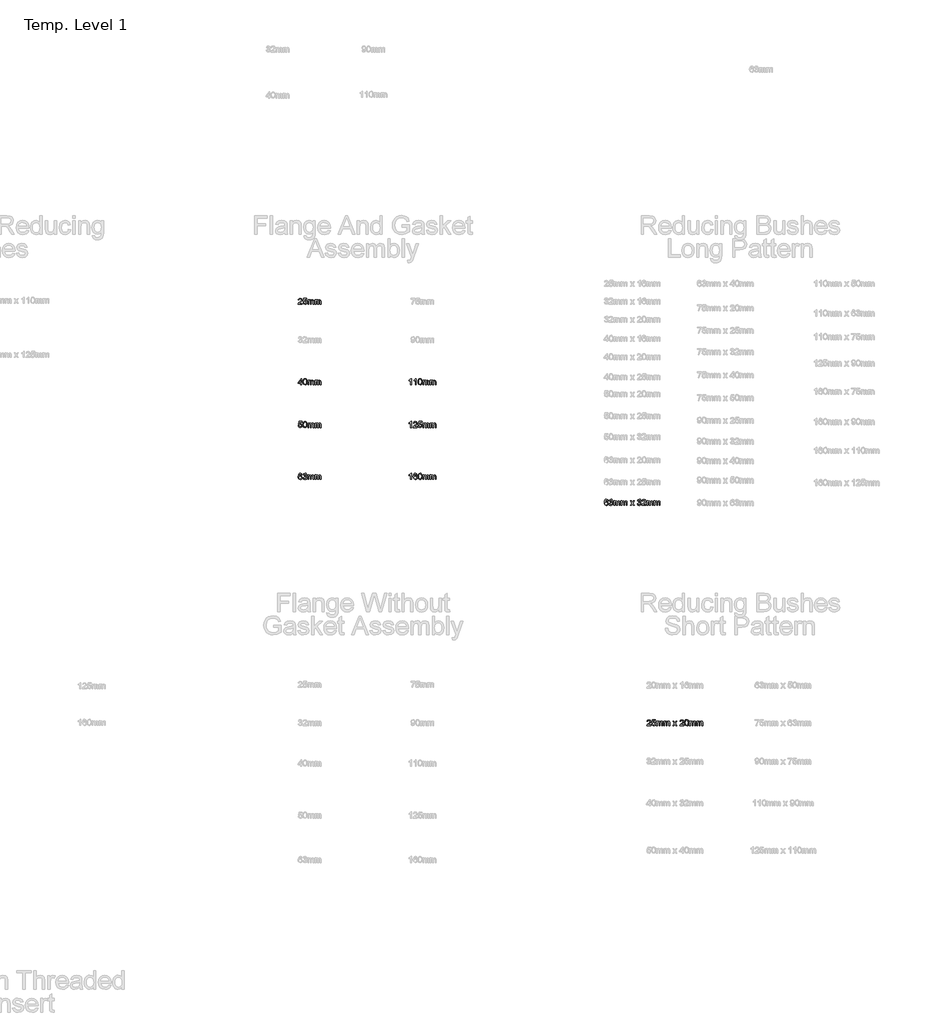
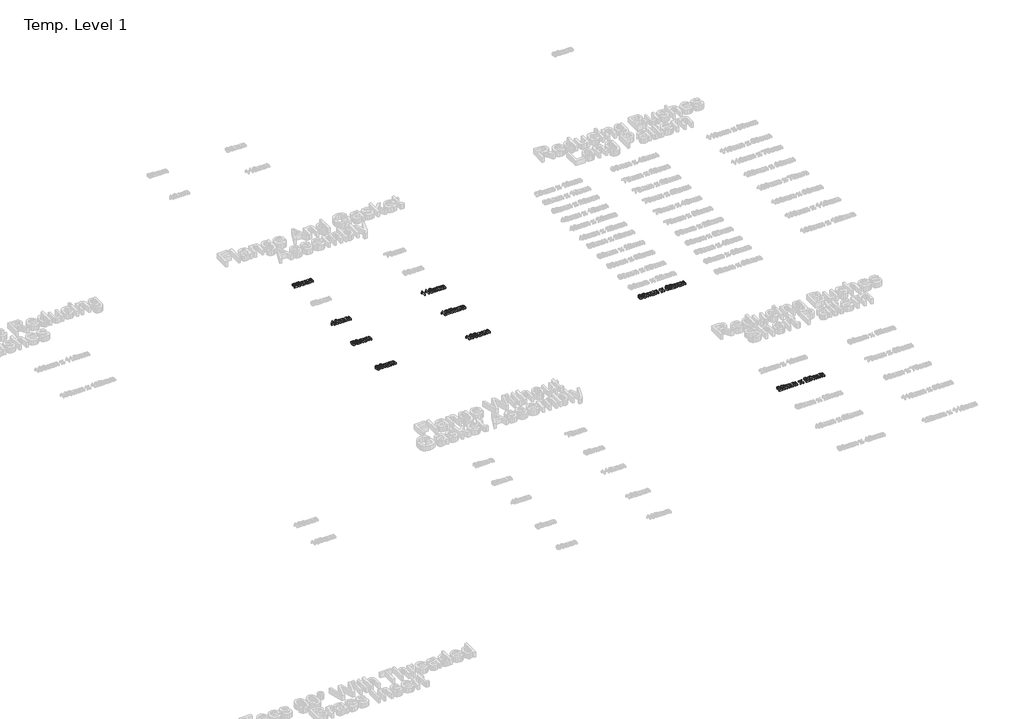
# One storey, part 34 of 62: 9 proxies.
"""IFC4 building model written with IfcOpenShell, lengths in millimetres."""

from ifc_helpers import new_model, si_unit, origin, origin_with_axes, place, context, project, spatial, polyline, outline, extrude, element, save

model = new_model("IFC4")

# Units and contexts
model_context = context("Model", 3, world=origin())
ifc_project = project(units=[si_unit("LENGTHUNIT", "METRE", prefix="MILLI")], contexts=[model_context])

# Site, building, storey
site = spatial("IfcSite", under=ifc_project)
building = spatial("IfcBuilding", under=site)
storey = spatial("IfcBuildingStorey", under=building, Name="Temp. Level 1", Elevation=0.0)

# Proxies
placement = place(None, origin())
element("IfcBuildingElementProxy", 1, Name="50mm Arial", ObjectType="50mm Arial", at=placement, inside=storey, context=model_context, shape_type="SweptSolid", body=[
    extrude(outline(polyline([(20936.7745802, -4529.0446709), (20936.7745802, -4535.198517), (20904.4668879, -4535.198517), (20905.1279456, -4530.9557286), (20908.8659263, -4524.4232766), (20916.5702533, -4517.2898632), (20927.1952533, -4507.0374593), (20929.8515033, -4500.0663055), (20927.3454936, -4494.4232766), (20920.8010225, -4492.1215939), (20913.980109, -4494.3691901), (20911.3899648, -4500.5831324), (20905.2361186, -4499.8139016), (20909.9536667, -4489.5134209), (20920.933234, -4485.9677478), (20931.948859, -4489.9100555), (20936.0053494, -4499.6937093), (20934.9115994, -4505.5290459), (20931.2757821, -4511.5626997), (20922.4596763, -4519.9941901), (20915.3803494, -4525.9136612), (20912.6039071, -4529.0446709), (20936.7745802, -4529.0446709)])), origin_with_axes(), (0.0, 0.0, 1.0), 15.0),
    extrude(outline(polyline([(20942.9284263, -4522.1215939), (20949.0822725, -4521.3523632), (20952.183234, -4527.6925074), (20958.6135225, -4529.8139016), (20966.3298686, -4526.8631805), (20969.0822725, -4519.0326516), (20966.5041475, -4511.7249593), (20958.7096763, -4509.0446709), (20953.3070321, -4510.1143824), (20949.8515033, -4512.8908247), (20943.6976571, -4512.1215939), (20949.0822725, -4486.7369786), (20972.9284263, -4486.7369786), (20972.9284263, -4492.8908247), (20954.058234, -4492.8908247), (20951.4260225, -4506.448517), (20960.4284263, -4502.8908247), (20970.9512629, -4507.3018824), (20975.2361186, -4518.6480362), (20971.3779456, -4530.0663055), (20965.8370802, -4534.4923872), (20958.589484, -4535.9677478), (20947.730109, -4532.1756805), (20942.9284263, -4522.1215939)])), origin_with_axes(), (0.0, 0.0, 1.0), 15.0),
    extrude(outline(polyline([(20982.1591956, -4535.198517), (20982.1591956, -4499.0446709), (20988.3130417, -4499.0446709), (20988.3130417, -4504.9941901), (20992.5438109, -4500.120392), (20998.5654456, -4498.2754401), (21004.7313109, -4500.1564497), (21008.120734, -4505.4268824), (21012.9224167, -4500.0633007), (21018.9861186, -4498.2754401), (21027.0329936, -4501.2501997), (21029.8515033, -4510.4148632), (21029.8515033, -4535.198517), (21023.6976571, -4535.198517), (21023.6976571, -4513.0590939), (21023.1267436, -4507.9208728), (21021.0594359, -4505.3908247), (21017.5438109, -4504.4292862), (21011.4921283, -4506.8932286), (21009.0822725, -4514.7898632), (21009.0822725, -4535.198517), (21002.9284263, -4535.198517), (21002.9284263, -4512.3739978), (21001.5041475, -4506.4124593), (20996.8346763, -4504.4292862), (20992.2793879, -4505.7514016), (20989.2505417, -4509.6215939), (20988.3130417, -4516.9653439), (20988.3130417, -4535.198517), (20982.1591956, -4535.198517)])), origin_with_axes(), (0.0, 0.0, 1.0), 15.0),
    extrude(outline(polyline([(21039.0822725, -4535.198517), (21039.0822725, -4499.0446709), (21045.2361186, -4499.0446709), (21045.2361186, -4504.9941901), (21049.4668879, -4500.120392), (21055.4885225, -4498.2754401), (21061.6543879, -4500.1564497), (21065.0438109, -4505.4268824), (21069.8454936, -4500.0633007), (21075.9091956, -4498.2754401), (21083.9560706, -4501.2501997), (21086.7745802, -4510.4148632), (21086.7745802, -4535.198517), (21080.620734, -4535.198517), (21080.620734, -4513.0590939), (21080.0498206, -4507.9208728), (21077.9825129, -4505.3908247), (21074.4668879, -4504.4292862), (21068.4152052, -4506.8932286), (21066.0053494, -4514.7898632), (21066.0053494, -4535.198517), (21059.8515033, -4535.198517), (21059.8515033, -4512.3739978), (21058.4272244, -4506.4124593), (21053.7577533, -4504.4292862), (21049.2024648, -4505.7514016), (21046.1736186, -4509.6215939), (21045.2361186, -4516.9653439), (21045.2361186, -4535.198517), (21039.0822725, -4535.198517)])), origin_with_axes(), (0.0, 0.0, 1.0), 15.0),
])
element("IfcBuildingElementProxy", 2, Name="50mm Arial", ObjectType="50mm Arial", at=placement, inside=storey, context=model_context, shape_type="SweptSolid", body=[
    extrude(outline(polyline([(20925.2361186, -5175.198517), (20925.2361186, -5163.6600555), (20902.9284263, -5163.6600555), (20902.9284263, -5157.5062093), (20926.7745802, -5126.7369786), (20931.3899648, -5126.7369786), (20931.3899648, -5157.5062093), (20937.5438109, -5157.5062093), (20937.5438109, -5163.6600555), (20931.3899648, -5163.6600555), (20931.3899648, -5175.198517), (20925.2361186, -5175.198517)]), holes=[polyline([(20925.2361186, -5157.5062093), (20925.2361186, -5138.4917862), (20910.5005417, -5157.5062093), (20925.2361186, -5157.5062093)])]), origin_with_axes(), (0.0, 0.0, 1.0), 15.0),
    extrude(outline(polyline([(20942.9284263, -5150.979767), (20944.7373206, -5136.8151036), (20950.1099167, -5128.6480362), (20959.0822725, -5125.9677478), (20966.2697725, -5127.5542862), (20971.2337148, -5132.1276036), (20974.1183302, -5139.4112574), (20975.2361186, -5150.979767), (20973.4452533, -5165.0843343), (20968.0906859, -5173.2694305), (20959.0822725, -5175.9677478), (20947.8322725, -5171.2802478), (20944.1543879, -5162.9539257), (20942.9284263, -5150.979767)]), holes=[polyline([(20949.0822725, -5150.9677478), (20951.9668879, -5166.2501997), (20959.0822725, -5169.8139016), (20966.1976571, -5166.2381805), (20969.0822725, -5150.9677478), (20966.2938109, -5135.8595747), (20959.0101571, -5132.1215939), (20952.0630417, -5135.4148632), (20949.0822725, -5150.9677478)])]), origin_with_axes(), (0.0, 0.0, 1.0), 15.0),
    extrude(outline(polyline([(20982.1591956, -5175.198517), (20982.1591956, -5139.0446709), (20988.3130417, -5139.0446709), (20988.3130417, -5144.9941901), (20992.5438109, -5140.120392), (20998.5654456, -5138.2754401), (21004.7313109, -5140.1564497), (21008.120734, -5145.4268824), (21012.9224167, -5140.0633007), (21018.9861186, -5138.2754401), (21027.0329936, -5141.2501997), (21029.8515033, -5150.4148632), (21029.8515033, -5175.198517), (21023.6976571, -5175.198517), (21023.6976571, -5153.0590939), (21023.1267436, -5147.9208728), (21021.0594359, -5145.3908247), (21017.5438109, -5144.4292862), (21011.4921283, -5146.8932286), (21009.0822725, -5154.7898632), (21009.0822725, -5175.198517), (21002.9284263, -5175.198517), (21002.9284263, -5152.3739978), (21001.5041475, -5146.4124593), (20996.8346763, -5144.4292862), (20992.2793879, -5145.7514016), (20989.2505417, -5149.6215939), (20988.3130417, -5156.9653439), (20988.3130417, -5175.198517), (20982.1591956, -5175.198517)])), origin_with_axes(), (0.0, 0.0, 1.0), 15.0),
    extrude(outline(polyline([(21039.0822725, -5175.198517), (21039.0822725, -5139.0446709), (21045.2361186, -5139.0446709), (21045.2361186, -5144.9941901), (21049.4668879, -5140.120392), (21055.4885225, -5138.2754401), (21061.6543879, -5140.1564497), (21065.0438109, -5145.4268824), (21069.8454936, -5140.0633007), (21075.9091956, -5138.2754401), (21083.9560706, -5141.2501997), (21086.7745802, -5150.4148632), (21086.7745802, -5175.198517), (21080.620734, -5175.198517), (21080.620734, -5153.0590939), (21080.0498206, -5147.9208728), (21077.9825129, -5145.3908247), (21074.4668879, -5144.4292862), (21068.4152052, -5146.8932286), (21066.0053494, -5154.7898632), (21066.0053494, -5175.198517), (21059.8515033, -5175.198517), (21059.8515033, -5152.3739978), (21058.4272244, -5146.4124593), (21053.7577533, -5144.4292862), (21049.2024648, -5145.7514016), (21046.1736186, -5149.6215939), (21045.2361186, -5156.9653439), (21045.2361186, -5175.198517), (21039.0822725, -5175.198517)])), origin_with_axes(), (0.0, 0.0, 1.0), 15.0),
])
element("IfcBuildingElementProxy", 3, Name="50mm Arial", ObjectType="50mm Arial", at=placement, inside=storey, context=model_context, shape_type="SweptSolid", body=[
    extrude(outline(polyline([(20905.2361186, -5501.8824542), (20911.3899648, -5501.1132234), (20914.4909263, -5507.4533677), (20920.9212148, -5509.5747619), (20928.6375609, -5506.6240407), (20931.3899648, -5498.7935119), (20928.8118398, -5491.4858196), (20921.0173686, -5488.8055311), (20915.6147244, -5489.8752427), (20912.1591956, -5492.651685), (20906.0053494, -5491.8824542), (20911.3899648, -5466.4978388), (20935.2361186, -5466.4978388), (20935.2361186, -5472.651685), (20916.3659263, -5472.651685), (20913.7337148, -5486.2093773), (20922.7361186, -5482.651685), (20933.2589552, -5487.0627427), (20937.5438109, -5498.4088965), (20933.6856379, -5509.8271657), (20928.1447725, -5514.2532475), (20920.8971763, -5515.728608), (20910.0378013, -5511.9365407), (20905.2361186, -5501.8824542)])), origin_with_axes(), (0.0, 0.0, 1.0), 15.0),
    extrude(outline(polyline([(20942.9284263, -5490.7406273), (20944.7373206, -5476.5759638), (20950.1099167, -5468.4088965), (20959.0822725, -5465.728608), (20966.2697725, -5467.3151465), (20971.2337148, -5471.8884638), (20974.1183302, -5479.1721177), (20975.2361186, -5490.7406273), (20973.4452533, -5504.8451946), (20968.0906859, -5513.0302907), (20959.0822725, -5515.728608), (20947.8322725, -5511.041108), (20944.1543879, -5502.7147859), (20942.9284263, -5490.7406273)]), holes=[polyline([(20949.0822725, -5490.728608), (20951.9668879, -5506.01106), (20959.0822725, -5509.5747619), (20966.1976571, -5505.9990407), (20969.0822725, -5490.728608), (20966.2938109, -5475.620435), (20959.0101571, -5471.8824542), (20952.0630417, -5475.1757234), (20949.0822725, -5490.728608)])]), origin_with_axes(), (0.0, 0.0, 1.0), 15.0),
    extrude(outline(polyline([(20982.1591956, -5514.9593773), (20982.1591956, -5478.8055311), (20988.3130417, -5478.8055311), (20988.3130417, -5484.7550504), (20992.5438109, -5479.8812523), (20998.5654456, -5478.0363004), (21004.7313109, -5479.91731), (21008.120734, -5485.1877427), (21012.9224167, -5479.8241609), (21018.9861186, -5478.0363004), (21027.0329936, -5481.01106), (21029.8515033, -5490.1757234), (21029.8515033, -5514.9593773), (21023.6976571, -5514.9593773), (21023.6976571, -5492.8199542), (21023.1267436, -5487.681733), (21021.0594359, -5485.151685), (21017.5438109, -5484.1901465), (21011.4921283, -5486.6540888), (21009.0822725, -5494.5507234), (21009.0822725, -5514.9593773), (21002.9284263, -5514.9593773), (21002.9284263, -5492.134858), (21001.5041475, -5486.1733196), (20996.8346763, -5484.1901465), (20992.2793879, -5485.5122619), (20989.2505417, -5489.3824542), (20988.3130417, -5496.7262042), (20988.3130417, -5514.9593773), (20982.1591956, -5514.9593773)])), origin_with_axes(), (0.0, 0.0, 1.0), 15.0),
    extrude(outline(polyline([(21039.0822725, -5514.9593773), (21039.0822725, -5478.8055311), (21045.2361186, -5478.8055311), (21045.2361186, -5484.7550504), (21049.4668879, -5479.8812523), (21055.4885225, -5478.0363004), (21061.6543879, -5479.91731), (21065.0438109, -5485.1877427), (21069.8454936, -5479.8241609), (21075.9091956, -5478.0363004), (21083.9560706, -5481.01106), (21086.7745802, -5490.1757234), (21086.7745802, -5514.9593773), (21080.620734, -5514.9593773), (21080.620734, -5492.8199542), (21080.0498206, -5487.681733), (21077.9825129, -5485.151685), (21074.4668879, -5484.1901465), (21068.4152052, -5486.6540888), (21066.0053494, -5494.5507234), (21066.0053494, -5514.9593773), (21059.8515033, -5514.9593773), (21059.8515033, -5492.134858), (21058.4272244, -5486.1733196), (21053.7577533, -5484.1901465), (21049.2024648, -5485.5122619), (21046.1736186, -5489.3824542), (21045.2361186, -5496.7262042), (21045.2361186, -5514.9593773), (21039.0822725, -5514.9593773)])), origin_with_axes(), (0.0, 0.0, 1.0), 15.0),
])
element("IfcBuildingElementProxy", 4, Name="50mm Arial", ObjectType="50mm Arial", at=placement, inside=storey, context=model_context, shape_type="SweptSolid", body=[
    extrude(outline(polyline([(20936.7745802, -5891.3055311), (20930.620734, -5892.0747619), (20928.2890033, -5886.9425504), (20922.1231379, -5884.3824542), (20916.5702533, -5885.8728388), (20912.3695321, -5891.4677907), (20910.620734, -5902.4353388), (20916.0474167, -5897.525483), (20922.7721763, -5895.9209157), (20933.2289071, -5900.307935), (20937.5438109, -5911.6420696), (20935.5125609, -5920.1336561), (20929.9236186, -5926.1432715), (20921.8587148, -5928.228608), (20909.3166475, -5922.6997619), (20905.6793278, -5915.3800504), (20904.4668879, -5904.478608), (20905.8130417, -5892.2219975), (20909.8515033, -5883.8415888), (20915.3653254, -5879.6318532), (20922.5077533, -5878.228608), (20932.2313109, -5881.7021657), (20936.7745802, -5891.3055311)]), holes=[polyline([(20910.620734, -5911.5459157), (20912.0450129, -5916.8764446), (20915.8310706, -5920.7466369), (20921.3779456, -5922.0747619), (20928.6315513, -5919.322358), (20931.3899648, -5911.8463965), (20928.667609, -5904.6889446), (20921.1255417, -5902.0747619), (20913.6796283, -5904.6889446), (20910.620734, -5911.5459157)])]), origin_with_axes(), (0.0, 0.0, 1.0), 15.0),
    extrude(outline(polyline([(20942.9284263, -5914.3824542), (20949.0822725, -5913.6132234), (20952.4777052, -5920.0915888), (20958.8298686, -5922.0747619), (20966.3058302, -5919.3463965), (20969.0822725, -5912.5915888), (20966.3298686, -5906.2274061), (20959.3346763, -5903.7093773), (20955.0197725, -5904.3824542), (20955.7048686, -5898.228608), (20963.6736186, -5896.5338965), (20966.7745802, -5891.1012042), (20964.526984, -5886.2875023), (20958.7337148, -5884.3824542), (20952.8683302, -5886.3055311), (20949.8515033, -5892.0747619), (20943.6976571, -5891.3055311), (20948.7337148, -5881.6540888), (20958.5173686, -5878.228608), (20965.9392436, -5879.91731), (20971.1315513, -5884.5326946), (20972.9284263, -5890.7406273), (20971.2216956, -5896.4137042), (20966.1736186, -5900.4882234), (20972.8803494, -5904.6949542), (20975.2361186, -5912.6997619), (20970.5245802, -5923.7093773), (20958.6135225, -5928.228608), (20947.8202533, -5924.370435), (20942.9284263, -5914.3824542)])), origin_with_axes(), (0.0, 0.0, 1.0), 15.0),
    extrude(outline(polyline([(20982.1591956, -5927.4593773), (20982.1591956, -5891.3055311), (20988.3130417, -5891.3055311), (20988.3130417, -5897.2550504), (20992.5438109, -5892.3812523), (20998.5654456, -5890.5363004), (21004.7313109, -5892.41731), (21008.120734, -5897.6877427), (21012.9224167, -5892.3241609), (21018.9861186, -5890.5363004), (21027.0329936, -5893.51106), (21029.8515033, -5902.6757234), (21029.8515033, -5927.4593773), (21023.6976571, -5927.4593773), (21023.6976571, -5905.3199542), (21023.1267436, -5900.181733), (21021.0594359, -5897.651685), (21017.5438109, -5896.6901465), (21011.4921283, -5899.1540888), (21009.0822725, -5907.0507234), (21009.0822725, -5927.4593773), (21002.9284263, -5927.4593773), (21002.9284263, -5904.634858), (21001.5041475, -5898.6733196), (20996.8346763, -5896.6901465), (20992.2793879, -5898.0122619), (20989.2505417, -5901.8824542), (20988.3130417, -5909.2262042), (20988.3130417, -5927.4593773), (20982.1591956, -5927.4593773)])), origin_with_axes(), (0.0, 0.0, 1.0), 15.0),
    extrude(outline(polyline([(21039.0822725, -5927.4593773), (21039.0822725, -5891.3055311), (21045.2361186, -5891.3055311), (21045.2361186, -5897.2550504), (21049.4668879, -5892.3812523), (21055.4885225, -5890.5363004), (21061.6543879, -5892.41731), (21065.0438109, -5897.6877427), (21069.8454936, -5892.3241609), (21075.9091956, -5890.5363004), (21083.9560706, -5893.51106), (21086.7745802, -5902.6757234), (21086.7745802, -5927.4593773), (21080.620734, -5927.4593773), (21080.620734, -5905.3199542), (21080.0498206, -5900.181733), (21077.9825129, -5897.651685), (21074.4668879, -5896.6901465), (21068.4152052, -5899.1540888), (21066.0053494, -5907.0507234), (21066.0053494, -5927.4593773), (21059.8515033, -5927.4593773), (21059.8515033, -5904.634858), (21058.4272244, -5898.6733196), (21053.7577533, -5896.6901465), (21049.2024648, -5898.0122619), (21046.1736186, -5901.8824542), (21045.2361186, -5909.2262042), (21045.2361186, -5927.4593773), (21039.0822725, -5927.4593773)])), origin_with_axes(), (0.0, 0.0, 1.0), 15.0),
])
element("IfcBuildingElementProxy", 5, Name="50mm Arial", ObjectType="50mm Arial", at=placement, inside=storey, context=model_context, shape_type="SweptSolid", body=[
    extrude(outline(polyline([(21805.4668879, -5175.198517), (21799.3130417, -5175.198517), (21799.3130417, -5136.8331324), (21793.4837148, -5140.9857766), (21787.0053494, -5144.0927478), (21787.0053494, -5138.2754401), (21796.0257821, -5132.5182286), (21801.5005417, -5125.9677478), (21805.4668879, -5125.9677478), (21805.4668879, -5175.198517)])), origin_with_axes(), (0.0, 0.0, 1.0), 15.0),
    extrude(outline(polyline([(21843.1591956, -5175.198517), (21837.0053494, -5175.198517), (21837.0053494, -5136.8331324), (21831.1760225, -5140.9857766), (21824.6976571, -5144.0927478), (21824.6976571, -5138.2754401), (21833.7180898, -5132.5182286), (21839.1928494, -5125.9677478), (21843.1591956, -5125.9677478), (21843.1591956, -5175.198517)])), origin_with_axes(), (0.0, 0.0, 1.0), 15.0),
    extrude(outline(polyline([(21857.7745802, -5150.979767), (21859.5834744, -5136.8151036), (21864.9560706, -5128.6480362), (21873.9284263, -5125.9677478), (21881.1159263, -5127.5542862), (21886.0798686, -5132.1276036), (21888.964484, -5139.4112574), (21890.0822725, -5150.979767), (21888.2914071, -5165.0843343), (21882.9368398, -5173.2694305), (21873.9284263, -5175.9677478), (21862.6784263, -5171.2802478), (21859.0005417, -5162.9539257), (21857.7745802, -5150.979767)]), holes=[polyline([(21863.9284263, -5150.9677478), (21866.8130417, -5166.2501997), (21873.9284263, -5169.8139016), (21881.0438109, -5166.2381805), (21883.9284263, -5150.9677478), (21881.1399648, -5135.8595747), (21873.8563109, -5132.1215939), (21866.9091956, -5135.4148632), (21863.9284263, -5150.9677478)])]), origin_with_axes(), (0.0, 0.0, 1.0), 15.0),
    extrude(outline(polyline([(21897.0053494, -5175.198517), (21897.0053494, -5139.0446709), (21903.1591956, -5139.0446709), (21903.1591956, -5144.9941901), (21907.3899648, -5140.120392), (21913.4115994, -5138.2754401), (21919.5774648, -5140.1564497), (21922.9668879, -5145.4268824), (21927.7685706, -5140.0633007), (21933.8322725, -5138.2754401), (21941.8791475, -5141.2501997), (21944.6976571, -5150.4148632), (21944.6976571, -5175.198517), (21938.5438109, -5175.198517), (21938.5438109, -5153.0590939), (21937.9728975, -5147.9208728), (21935.9055898, -5145.3908247), (21932.3899648, -5144.4292862), (21926.3382821, -5146.8932286), (21923.9284263, -5154.7898632), (21923.9284263, -5175.198517), (21917.7745802, -5175.198517), (21917.7745802, -5152.3739978), (21916.3503013, -5146.4124593), (21911.6808302, -5144.4292862), (21907.1255417, -5145.7514016), (21904.0966956, -5149.6215939), (21903.1591956, -5156.9653439), (21903.1591956, -5175.198517), (21897.0053494, -5175.198517)])), origin_with_axes(), (0.0, 0.0, 1.0), 15.0),
    extrude(outline(polyline([(21953.9284263, -5175.198517), (21953.9284263, -5139.0446709), (21960.0822725, -5139.0446709), (21960.0822725, -5144.9941901), (21964.3130417, -5140.120392), (21970.3346763, -5138.2754401), (21976.5005417, -5140.1564497), (21979.8899648, -5145.4268824), (21984.6916475, -5140.0633007), (21990.7553494, -5138.2754401), (21998.8022244, -5141.2501997), (22001.620734, -5150.4148632), (22001.620734, -5175.198517), (21995.4668879, -5175.198517), (21995.4668879, -5153.0590939), (21994.8959744, -5147.9208728), (21992.8286667, -5145.3908247), (21989.3130417, -5144.4292862), (21983.261359, -5146.8932286), (21980.8515033, -5154.7898632), (21980.8515033, -5175.198517), (21974.6976571, -5175.198517), (21974.6976571, -5152.3739978), (21973.2733783, -5146.4124593), (21968.6039071, -5144.4292862), (21964.0486186, -5145.7514016), (21961.0197725, -5149.6215939), (21960.0822725, -5156.9653439), (21960.0822725, -5175.198517), (21953.9284263, -5175.198517)])), origin_with_axes(), (0.0, 0.0, 1.0), 15.0),
])
element("IfcBuildingElementProxy", 6, Name="50mm Arial", ObjectType="50mm Arial", at=placement, inside=storey, context=model_context, shape_type="SweptSolid", body=[
    extrude(outline(polyline([(21805.4668879, -5514.9593773), (21799.3130417, -5514.9593773), (21799.3130417, -5476.5939927), (21793.4837148, -5480.7466369), (21787.0053494, -5483.853608), (21787.0053494, -5478.0363004), (21796.0257821, -5472.2790888), (21801.5005417, -5465.728608), (21805.4668879, -5465.728608), (21805.4668879, -5514.9593773)])), origin_with_axes(), (0.0, 0.0, 1.0), 15.0),
    extrude(outline(polyline([(21851.620734, -5508.8055311), (21851.620734, -5514.9593773), (21819.3130417, -5514.9593773), (21819.9740994, -5510.7165888), (21823.7120802, -5504.1841369), (21831.4164071, -5497.0507234), (21842.0414071, -5486.7983196), (21844.6976571, -5479.8271657), (21842.1916475, -5474.1841369), (21835.6471763, -5471.8824542), (21828.8262629, -5474.1300504), (21826.2361186, -5480.3439927), (21820.0822725, -5479.5747619), (21824.7998206, -5469.2742811), (21835.7793879, -5465.728608), (21846.7950129, -5469.6709157), (21850.8515033, -5479.4545696), (21849.7577533, -5485.2899061), (21846.1219359, -5491.32356), (21837.3058302, -5499.7550504), (21830.2265033, -5505.6745215), (21827.4500609, -5508.8055311), (21851.620734, -5508.8055311)])), origin_with_axes(), (0.0, 0.0, 1.0), 15.0),
    extrude(outline(polyline([(21857.7745802, -5501.8824542), (21863.9284263, -5501.1132234), (21867.0293879, -5507.4533677), (21873.4596763, -5509.5747619), (21881.1760225, -5506.6240407), (21883.9284263, -5498.7935119), (21881.3503013, -5491.4858196), (21873.5558302, -5488.8055311), (21868.1531859, -5489.8752427), (21864.6976571, -5492.651685), (21858.5438109, -5491.8824542), (21863.9284263, -5466.4978388), (21887.7745802, -5466.4978388), (21887.7745802, -5472.651685), (21868.9043879, -5472.651685), (21866.2721763, -5486.2093773), (21875.2745802, -5482.651685), (21885.7974167, -5487.0627427), (21890.0822725, -5498.4088965), (21886.2240994, -5509.8271657), (21880.683234, -5514.2532475), (21873.4356379, -5515.728608), (21862.5762629, -5511.9365407), (21857.7745802, -5501.8824542)])), origin_with_axes(), (0.0, 0.0, 1.0), 15.0),
    extrude(outline(polyline([(21897.0053494, -5514.9593773), (21897.0053494, -5478.8055311), (21903.1591956, -5478.8055311), (21903.1591956, -5484.7550504), (21907.3899648, -5479.8812523), (21913.4115994, -5478.0363004), (21919.5774648, -5479.91731), (21922.9668879, -5485.1877427), (21927.7685706, -5479.8241609), (21933.8322725, -5478.0363004), (21941.8791475, -5481.01106), (21944.6976571, -5490.1757234), (21944.6976571, -5514.9593773), (21938.5438109, -5514.9593773), (21938.5438109, -5492.8199542), (21937.9728975, -5487.681733), (21935.9055898, -5485.151685), (21932.3899648, -5484.1901465), (21926.3382821, -5486.6540888), (21923.9284263, -5494.5507234), (21923.9284263, -5514.9593773), (21917.7745802, -5514.9593773), (21917.7745802, -5492.134858), (21916.3503013, -5486.1733196), (21911.6808302, -5484.1901465), (21907.1255417, -5485.5122619), (21904.0966956, -5489.3824542), (21903.1591956, -5496.7262042), (21903.1591956, -5514.9593773), (21897.0053494, -5514.9593773)])), origin_with_axes(), (0.0, 0.0, 1.0), 15.0),
    extrude(outline(polyline([(21953.9284263, -5514.9593773), (21953.9284263, -5478.8055311), (21960.0822725, -5478.8055311), (21960.0822725, -5484.7550504), (21964.3130417, -5479.8812523), (21970.3346763, -5478.0363004), (21976.5005417, -5479.91731), (21979.8899648, -5485.1877427), (21984.6916475, -5479.8241609), (21990.7553494, -5478.0363004), (21998.8022244, -5481.01106), (22001.620734, -5490.1757234), (22001.620734, -5514.9593773), (21995.4668879, -5514.9593773), (21995.4668879, -5492.8199542), (21994.8959744, -5487.681733), (21992.8286667, -5485.151685), (21989.3130417, -5484.1901465), (21983.261359, -5486.6540888), (21980.8515033, -5494.5507234), (21980.8515033, -5514.9593773), (21974.6976571, -5514.9593773), (21974.6976571, -5492.134858), (21973.2733783, -5486.1733196), (21968.6039071, -5484.1901465), (21964.0486186, -5485.5122619), (21961.0197725, -5489.3824542), (21960.0822725, -5496.7262042), (21960.0822725, -5514.9593773), (21953.9284263, -5514.9593773)])), origin_with_axes(), (0.0, 0.0, 1.0), 15.0),
])
element("IfcBuildingElementProxy", 7, Name="50mm Arial", ObjectType="50mm Arial", at=placement, inside=storey, context=model_context, shape_type="SweptSolid", body=[
    extrude(outline(polyline([(21805.4668879, -5927.4593773), (21799.3130417, -5927.4593773), (21799.3130417, -5889.0939927), (21793.4837148, -5893.2466369), (21787.0053494, -5896.353608), (21787.0053494, -5890.5363004), (21796.0257821, -5884.7790888), (21801.5005417, -5878.228608), (21805.4668879, -5878.228608), (21805.4668879, -5927.4593773)])), origin_with_axes(), (0.0, 0.0, 1.0), 15.0),
    extrude(outline(polyline([(21851.620734, -5891.3055311), (21845.4668879, -5892.0747619), (21843.1351571, -5886.9425504), (21836.9692917, -5884.3824542), (21831.4164071, -5885.8728388), (21827.2156859, -5891.4677907), (21825.4668879, -5902.4353388), (21830.8935706, -5897.525483), (21837.6183302, -5895.9209157), (21848.0750609, -5900.307935), (21852.3899648, -5911.6420696), (21850.3587148, -5920.1336561), (21844.7697725, -5926.1432715), (21836.7048686, -5928.228608), (21824.1628013, -5922.6997619), (21820.5254816, -5915.3800504), (21819.3130417, -5904.478608), (21820.6591956, -5892.2219975), (21824.6976571, -5883.8415888), (21830.2114792, -5879.6318532), (21837.3539071, -5878.228608), (21847.0774648, -5881.7021657), (21851.620734, -5891.3055311)]), holes=[polyline([(21825.4668879, -5911.5459157), (21826.8911667, -5916.8764446), (21830.6772244, -5920.7466369), (21836.2240994, -5922.0747619), (21843.4777052, -5919.322358), (21846.2361186, -5911.8463965), (21843.5137629, -5904.6889446), (21835.9716956, -5902.0747619), (21828.5257821, -5904.6889446), (21825.4668879, -5911.5459157)])]), origin_with_axes(), (0.0, 0.0, 1.0), 15.0),
    extrude(outline(polyline([(21857.7745802, -5903.2406273), (21859.5834744, -5889.0759638), (21864.9560706, -5880.9088965), (21873.9284263, -5878.228608), (21881.1159263, -5879.8151465), (21886.0798686, -5884.3884638), (21888.964484, -5891.6721177), (21890.0822725, -5903.2406273), (21888.2914071, -5917.3451946), (21882.9368398, -5925.5302907), (21873.9284263, -5928.228608), (21862.6784263, -5923.541108), (21859.0005417, -5915.2147859), (21857.7745802, -5903.2406273)]), holes=[polyline([(21863.9284263, -5903.228608), (21866.8130417, -5918.51106), (21873.9284263, -5922.0747619), (21881.0438109, -5918.4990407), (21883.9284263, -5903.228608), (21881.1399648, -5888.120435), (21873.8563109, -5884.3824542), (21866.9091956, -5887.6757234), (21863.9284263, -5903.228608)])]), origin_with_axes(), (0.0, 0.0, 1.0), 15.0),
    extrude(outline(polyline([(21897.0053494, -5927.4593773), (21897.0053494, -5891.3055311), (21903.1591956, -5891.3055311), (21903.1591956, -5897.2550504), (21907.3899648, -5892.3812523), (21913.4115994, -5890.5363004), (21919.5774648, -5892.41731), (21922.9668879, -5897.6877427), (21927.7685706, -5892.3241609), (21933.8322725, -5890.5363004), (21941.8791475, -5893.51106), (21944.6976571, -5902.6757234), (21944.6976571, -5927.4593773), (21938.5438109, -5927.4593773), (21938.5438109, -5905.3199542), (21937.9728975, -5900.181733), (21935.9055898, -5897.651685), (21932.3899648, -5896.6901465), (21926.3382821, -5899.1540888), (21923.9284263, -5907.0507234), (21923.9284263, -5927.4593773), (21917.7745802, -5927.4593773), (21917.7745802, -5904.634858), (21916.3503013, -5898.6733196), (21911.6808302, -5896.6901465), (21907.1255417, -5898.0122619), (21904.0966956, -5901.8824542), (21903.1591956, -5909.2262042), (21903.1591956, -5927.4593773), (21897.0053494, -5927.4593773)])), origin_with_axes(), (0.0, 0.0, 1.0), 15.0),
    extrude(outline(polyline([(21953.9284263, -5927.4593773), (21953.9284263, -5891.3055311), (21960.0822725, -5891.3055311), (21960.0822725, -5897.2550504), (21964.3130417, -5892.3812523), (21970.3346763, -5890.5363004), (21976.5005417, -5892.41731), (21979.8899648, -5897.6877427), (21984.6916475, -5892.3241609), (21990.7553494, -5890.5363004), (21998.8022244, -5893.51106), (22001.620734, -5902.6757234), (22001.620734, -5927.4593773), (21995.4668879, -5927.4593773), (21995.4668879, -5905.3199542), (21994.8959744, -5900.181733), (21992.8286667, -5897.651685), (21989.3130417, -5896.6901465), (21983.261359, -5899.1540888), (21980.8515033, -5907.0507234), (21980.8515033, -5927.4593773), (21974.6976571, -5927.4593773), (21974.6976571, -5904.634858), (21973.2733783, -5898.6733196), (21968.6039071, -5896.6901465), (21964.0486186, -5898.0122619), (21961.0197725, -5901.8824542), (21960.0822725, -5909.2262042), (21960.0822725, -5927.4593773), (21953.9284263, -5927.4593773)])), origin_with_axes(), (0.0, 0.0, 1.0), 15.0),
])
element("IfcBuildingElementProxy", 8, Name="50mm Arial", ObjectType="50mm Arial", at=placement, inside=storey, context=model_context, shape_type="SweptSolid", body=[
    extrude(outline(polyline([(23370.9178032, -6097.7141655), (23364.763957, -6098.4833963), (23362.4322262, -6093.3511848), (23356.2663609, -6090.7910886), (23350.7134762, -6092.2814732), (23346.5127551, -6097.8764252), (23344.763957, -6108.8439732), (23350.1906397, -6103.9341175), (23356.9153993, -6102.3295502), (23367.3721301, -6106.7165694), (23371.6870339, -6118.050704), (23369.6557839, -6126.5422905), (23364.0668416, -6132.5519059), (23356.0019378, -6134.6372425), (23343.4598705, -6129.1083963), (23339.8225508, -6121.7886848), (23338.6101109, -6110.8872425), (23339.9562647, -6098.6306319), (23343.9947262, -6090.2502232), (23349.5085484, -6086.0404877), (23356.6509762, -6084.6372425), (23366.3745339, -6088.1108002), (23370.9178032, -6097.7141655)]), holes=[polyline([(23344.763957, -6117.9545502), (23346.1882359, -6123.285079), (23349.9742935, -6127.1552713), (23355.5211685, -6128.4833963), (23362.7747743, -6125.7309925), (23365.5331878, -6118.2550309), (23362.810832, -6111.097579), (23355.2687647, -6108.4833963), (23347.8228512, -6111.097579), (23344.763957, -6117.9545502)])]), origin_with_axes(), (0.0, 0.0, 1.0), 15.0),
    extrude(outline(polyline([(23377.0716493, -6120.7910886), (23383.2254955, -6120.0218579), (23386.6209282, -6126.5002232), (23392.9730916, -6128.4833963), (23400.4490532, -6125.7550309), (23403.2254955, -6119.0002232), (23400.4730916, -6112.6360405), (23393.4778993, -6110.1180117), (23389.1629955, -6110.7910886), (23389.8480916, -6104.6372425), (23397.8168416, -6102.9425309), (23400.9178032, -6097.5098386), (23398.670207, -6092.6961367), (23392.8769378, -6090.7910886), (23387.0115532, -6092.7141655), (23383.9947262, -6098.4833963), (23377.8408801, -6097.7141655), (23382.8769378, -6088.0627232), (23392.6605916, -6084.6372425), (23400.0824666, -6086.3259444), (23405.2747743, -6090.941329), (23407.0716493, -6097.1492617), (23405.3649185, -6102.8223386), (23400.3168416, -6106.8968579), (23407.0235724, -6111.1035886), (23409.3793416, -6119.1083963), (23404.6678032, -6130.1180117), (23392.7567455, -6134.6372425), (23381.9634762, -6130.7790694), (23377.0716493, -6120.7910886)])), origin_with_axes(), (0.0, 0.0, 1.0), 15.0),
    extrude(outline(polyline([(23416.3024185, -6133.8680117), (23416.3024185, -6097.7141655), (23422.4562647, -6097.7141655), (23422.4562647, -6103.6636848), (23426.6870339, -6098.7898867), (23432.7086685, -6096.9449348), (23438.8745339, -6098.8259444), (23442.263957, -6104.0963771), (23447.0656397, -6098.7327954), (23453.1293416, -6096.9449348), (23461.1762166, -6099.9196944), (23463.9947262, -6109.0843579), (23463.9947262, -6133.8680117), (23457.8408801, -6133.8680117), (23457.8408801, -6111.7285886), (23457.2699666, -6106.5903675), (23455.2026589, -6104.0603194), (23451.6870339, -6103.0987809), (23445.6353512, -6105.5627232), (23443.2254955, -6113.4593579), (23443.2254955, -6133.8680117), (23437.0716493, -6133.8680117), (23437.0716493, -6111.0434925), (23435.6473705, -6105.081954), (23430.9778993, -6103.0987809), (23426.4226109, -6104.4208963), (23423.3937647, -6108.2910886), (23422.4562647, -6115.6348386), (23422.4562647, -6133.8680117), (23416.3024185, -6133.8680117)])), origin_with_axes(), (0.0, 0.0, 1.0), 15.0),
    extrude(outline(polyline([(23473.2254955, -6133.8680117), (23473.2254955, -6097.7141655), (23479.3793416, -6097.7141655), (23479.3793416, -6103.6636848), (23483.6101109, -6098.7898867), (23489.6317455, -6096.9449348), (23495.7976109, -6098.8259444), (23499.1870339, -6104.0963771), (23503.9887166, -6098.7327954), (23510.0524185, -6096.9449348), (23518.0992935, -6099.9196944), (23520.9178032, -6109.0843579), (23520.9178032, -6133.8680117), (23514.763957, -6133.8680117), (23514.763957, -6111.7285886), (23514.1930435, -6106.5903675), (23512.1257359, -6104.0603194), (23508.6101109, -6103.0987809), (23502.5584282, -6105.5627232), (23500.1485724, -6113.4593579), (23500.1485724, -6133.8680117), (23493.9947262, -6133.8680117), (23493.9947262, -6111.0434925), (23492.5704474, -6105.081954), (23487.9009762, -6103.0987809), (23483.3456878, -6104.4208963), (23480.3168416, -6108.2910886), (23479.3793416, -6115.6348386), (23479.3793416, -6133.8680117), (23473.2254955, -6133.8680117)])), origin_with_axes(), (0.0, 0.0, 1.0), 15.0),
    extrude(outline(polyline([(23545.5331878, -6133.8680117), (23558.6822262, -6115.6949348), (23546.3024185, -6097.7141655), (23553.7062647, -6097.7141655), (23559.6798224, -6106.3680117), (23562.4682839, -6110.4545502), (23564.8841493, -6107.113204), (23571.6870339, -6097.7141655), (23579.0908801, -6097.7141655), (23566.0860724, -6115.6949348), (23578.6101109, -6133.8680117), (23571.2062647, -6133.8680117), (23563.670207, -6122.9425309), (23562.2879955, -6120.9473386), (23552.9370339, -6133.8680117), (23545.5331878, -6133.8680117)])), origin_with_axes(), (0.0, 0.0, 1.0), 15.0),
    extrude(outline(polyline([(23601.6870339, -6120.7910886), (23607.8408801, -6120.0218579), (23611.2363128, -6126.5002232), (23617.5884762, -6128.4833963), (23625.0644378, -6125.7550309), (23627.8408801, -6119.0002232), (23625.0884762, -6112.6360405), (23618.0932839, -6110.1180117), (23613.7783801, -6110.7910886), (23614.4634762, -6104.6372425), (23622.4322262, -6102.9425309), (23625.5331878, -6097.5098386), (23623.2855916, -6092.6961367), (23617.4923224, -6090.7910886), (23611.6269378, -6092.7141655), (23608.6101109, -6098.4833963), (23602.4562647, -6097.7141655), (23607.4923224, -6088.0627232), (23617.2759762, -6084.6372425), (23624.6978512, -6086.3259444), (23629.8901589, -6090.941329), (23631.6870339, -6097.1492617), (23629.9803032, -6102.8223386), (23624.9322262, -6106.8968579), (23631.638957, -6111.1035886), (23633.9947262, -6119.1083963), (23629.2831878, -6130.1180117), (23617.3721301, -6134.6372425), (23606.5788609, -6130.7790694), (23601.6870339, -6120.7910886)])), origin_with_axes(), (0.0, 0.0, 1.0), 15.0),
    extrude(outline(polyline([(23670.9178032, -6127.7141655), (23670.9178032, -6133.8680117), (23638.6101109, -6133.8680117), (23639.2711685, -6129.6252232), (23643.0091493, -6123.0927713), (23650.7134762, -6115.9593579), (23661.3384762, -6105.706954), (23663.9947262, -6098.7358002), (23661.4887166, -6093.0927713), (23654.9442455, -6090.7910886), (23648.123332, -6093.0386848), (23645.5331878, -6099.2526271), (23639.3793416, -6098.4833963), (23644.0968897, -6088.1829155), (23655.076457, -6084.6372425), (23666.092082, -6088.5795502), (23670.1485724, -6098.363204), (23669.0548224, -6104.1985405), (23665.4190051, -6110.2321944), (23656.6028993, -6118.6636848), (23649.5235724, -6124.5831559), (23646.7471301, -6127.7141655), (23670.9178032, -6127.7141655)])), origin_with_axes(), (0.0, 0.0, 1.0), 15.0),
    extrude(outline(polyline([(23678.6101109, -6133.8680117), (23678.6101109, -6097.7141655), (23684.763957, -6097.7141655), (23684.763957, -6103.6636848), (23688.9947262, -6098.7898867), (23695.0163609, -6096.9449348), (23701.1822262, -6098.8259444), (23704.5716493, -6104.0963771), (23709.373332, -6098.7327954), (23715.4370339, -6096.9449348), (23723.4839089, -6099.9196944), (23726.3024185, -6109.0843579), (23726.3024185, -6133.8680117), (23720.1485724, -6133.8680117), (23720.1485724, -6111.7285886), (23719.5776589, -6106.5903675), (23717.5103512, -6104.0603194), (23713.9947262, -6103.0987809), (23707.9430435, -6105.5627232), (23705.5331878, -6113.4593579), (23705.5331878, -6133.8680117), (23699.3793416, -6133.8680117), (23699.3793416, -6111.0434925), (23697.9550628, -6105.081954), (23693.2855916, -6103.0987809), (23688.7303032, -6104.4208963), (23685.701457, -6108.2910886), (23684.763957, -6115.6348386), (23684.763957, -6133.8680117), (23678.6101109, -6133.8680117)])), origin_with_axes(), (0.0, 0.0, 1.0), 15.0),
    extrude(outline(polyline([(23735.5331878, -6133.8680117), (23735.5331878, -6097.7141655), (23741.6870339, -6097.7141655), (23741.6870339, -6103.6636848), (23745.9178032, -6098.7898867), (23751.9394378, -6096.9449348), (23758.1053032, -6098.8259444), (23761.4947262, -6104.0963771), (23766.2964089, -6098.7327954), (23772.3601109, -6096.9449348), (23780.4069859, -6099.9196944), (23783.2254955, -6109.0843579), (23783.2254955, -6133.8680117), (23777.0716493, -6133.8680117), (23777.0716493, -6111.7285886), (23776.5007359, -6106.5903675), (23774.4334282, -6104.0603194), (23770.9178032, -6103.0987809), (23764.8661205, -6105.5627232), (23762.4562647, -6113.4593579), (23762.4562647, -6133.8680117), (23756.3024185, -6133.8680117), (23756.3024185, -6111.0434925), (23754.8781397, -6105.081954), (23750.2086685, -6103.0987809), (23745.6533801, -6104.4208963), (23742.6245339, -6108.2910886), (23741.6870339, -6115.6348386), (23741.6870339, -6133.8680117), (23735.5331878, -6133.8680117)])), origin_with_axes(), (0.0, 0.0, 1.0), 15.0),
])
element("IfcBuildingElementProxy", 9, Name="50mm Arial", ObjectType="50mm Arial", at=placement, inside=storey, context=model_context, shape_type="SweptSolid", body=[
    extrude(outline(polyline([(23709.5900242, -7879.121299), (23709.5900242, -7885.2751451), (23677.2823318, -7885.2751451), (23677.9433895, -7881.0323566), (23681.6813703, -7874.4999047), (23689.3856972, -7867.3664913), (23700.0106972, -7857.1140874), (23702.6669472, -7850.1429336), (23700.1609376, -7844.4999047), (23693.6164665, -7842.198222), (23686.795553, -7844.4458182), (23684.2054088, -7850.6597605), (23678.0515626, -7849.8905297), (23682.7691107, -7839.590049), (23693.748678, -7836.0443759), (23704.764303, -7839.9866836), (23708.8207934, -7849.7703374), (23707.7270434, -7855.605674), (23704.0912261, -7861.6393278), (23695.2751203, -7870.0708182), (23688.1957934, -7875.9902893), (23685.4193511, -7879.121299), (23709.5900242, -7879.121299)])), origin_with_axes(), (0.0, 0.0, 1.0), 15.0),
    extrude(outline(polyline([(23715.7438703, -7872.198222), (23721.8977165, -7871.4289913), (23724.998678, -7877.7691355), (23731.4289665, -7879.8905297), (23739.1453126, -7876.9398086), (23741.8977165, -7869.1092797), (23739.3195915, -7861.8015874), (23731.5251203, -7859.121299), (23726.1224761, -7860.1910105), (23722.6669472, -7862.9674528), (23716.5131011, -7862.198222), (23721.8977165, -7836.8136066), (23745.7438703, -7836.8136066), (23745.7438703, -7842.9674528), (23726.873678, -7842.9674528), (23724.2414665, -7856.5251451), (23733.2438703, -7852.9674528), (23743.7667068, -7857.3785105), (23748.0515626, -7868.7246643), (23744.1933895, -7880.1429336), (23738.6525242, -7884.5690153), (23731.404928, -7886.0443759), (23720.545553, -7882.2523086), (23715.7438703, -7872.198222)])), origin_with_axes(), (0.0, 0.0, 1.0), 15.0),
    extrude(outline(polyline([(23754.9746395, -7885.2751451), (23754.9746395, -7849.121299), (23761.1284857, -7849.121299), (23761.1284857, -7855.0708182), (23765.3592549, -7850.1970201), (23771.3808895, -7848.3520682), (23777.5467549, -7850.2330778), (23780.936178, -7855.5035105), (23785.7378607, -7850.1399288), (23791.8015626, -7848.3520682), (23799.8484376, -7851.3268278), (23802.6669472, -7860.4914913), (23802.6669472, -7885.2751451), (23796.5131011, -7885.2751451), (23796.5131011, -7863.135722), (23795.9421876, -7857.9975009), (23793.8748799, -7855.4674528), (23790.3592549, -7854.5059143), (23784.3075722, -7856.9698566), (23781.8977165, -7864.8664913), (23781.8977165, -7885.2751451), (23775.7438703, -7885.2751451), (23775.7438703, -7862.4506259), (23774.3195915, -7856.4890874), (23769.6501203, -7854.5059143), (23765.0948318, -7855.8280297), (23762.0659857, -7859.698222), (23761.1284857, -7867.041972), (23761.1284857, -7885.2751451), (23754.9746395, -7885.2751451)])), origin_with_axes(), (0.0, 0.0, 1.0), 15.0),
    extrude(outline(polyline([(23811.8977165, -7885.2751451), (23811.8977165, -7849.121299), (23818.0515626, -7849.121299), (23818.0515626, -7855.0708182), (23822.2823318, -7850.1970201), (23828.3039665, -7848.3520682), (23834.4698318, -7850.2330778), (23837.8592549, -7855.5035105), (23842.6609376, -7850.1399288), (23848.7246395, -7848.3520682), (23856.7715145, -7851.3268278), (23859.5900242, -7860.4914913), (23859.5900242, -7885.2751451), (23853.436178, -7885.2751451), (23853.436178, -7863.135722), (23852.8652645, -7857.9975009), (23850.7979568, -7855.4674528), (23847.2823318, -7854.5059143), (23841.2306492, -7856.9698566), (23838.8207934, -7864.8664913), (23838.8207934, -7885.2751451), (23832.6669472, -7885.2751451), (23832.6669472, -7862.4506259), (23831.2426684, -7856.4890874), (23826.5731972, -7854.5059143), (23822.0179088, -7855.8280297), (23818.9890626, -7859.698222), (23818.0515626, -7867.041972), (23818.0515626, -7885.2751451), (23811.8977165, -7885.2751451)])), origin_with_axes(), (0.0, 0.0, 1.0), 15.0),
    extrude(outline(polyline([(23884.2054088, -7885.2751451), (23897.3544472, -7867.1020682), (23884.9746395, -7849.121299), (23892.3784857, -7849.121299), (23898.3520434, -7857.7751451), (23901.1405049, -7861.8616836), (23903.5563703, -7858.5203374), (23910.3592549, -7849.121299), (23917.7631011, -7849.121299), (23904.7582934, -7867.1020682), (23917.2823318, -7885.2751451), (23909.8784857, -7885.2751451), (23902.342428, -7874.3496643), (23900.9602165, -7872.354472), (23891.6092549, -7885.2751451), (23884.2054088, -7885.2751451)])), origin_with_axes(), (0.0, 0.0, 1.0), 15.0),
    extrude(outline(polyline([(23971.8977165, -7879.121299), (23971.8977165, -7885.2751451), (23939.5900242, -7885.2751451), (23940.2510818, -7881.0323566), (23943.9890626, -7874.4999047), (23951.6933895, -7867.3664913), (23962.3183895, -7857.1140874), (23964.9746395, -7850.1429336), (23962.4686299, -7844.4999047), (23955.9241588, -7842.198222), (23949.1032453, -7844.4458182), (23946.5131011, -7850.6597605), (23940.3592549, -7849.8905297), (23945.076803, -7839.590049), (23956.0563703, -7836.0443759), (23967.0719953, -7839.9866836), (23971.1284857, -7849.7703374), (23970.0347357, -7855.605674), (23966.3989184, -7861.6393278), (23957.5828126, -7870.0708182), (23950.5034857, -7875.9902893), (23947.7270434, -7879.121299), (23971.8977165, -7879.121299)])), origin_with_axes(), (0.0, 0.0, 1.0), 15.0),
    extrude(outline(polyline([(23978.0515626, -7861.0563951), (23979.8604568, -7846.8917316), (23985.233053, -7838.7246643), (23994.2054088, -7836.0443759), (24001.3929088, -7837.6309143), (24006.3568511, -7842.2042316), (24009.2414665, -7849.4878855), (24010.3592549, -7861.0563951), (24008.5683895, -7875.1609624), (24003.2138222, -7883.3460586), (23994.2054088, -7886.0443759), (23982.9554088, -7881.3568759), (23979.2775242, -7873.0305538), (23978.0515626, -7861.0563951)]), holes=[polyline([(23984.2054088, -7861.0443759), (23987.0900242, -7876.3268278), (23994.2054088, -7879.8905297), (24001.3207934, -7876.3148086), (24004.2054088, -7861.0443759), (24001.4169472, -7845.9362028), (23994.1332934, -7842.198222), (23987.186178, -7845.4914913), (23984.2054088, -7861.0443759)])]), origin_with_axes(), (0.0, 0.0, 1.0), 15.0),
    extrude(outline(polyline([(24017.2823318, -7885.2751451), (24017.2823318, -7849.121299), (24023.436178, -7849.121299), (24023.436178, -7855.0708182), (24027.6669472, -7850.1970201), (24033.6885818, -7848.3520682), (24039.8544472, -7850.2330778), (24043.2438703, -7855.5035105), (24048.045553, -7850.1399288), (24054.1092549, -7848.3520682), (24062.1561299, -7851.3268278), (24064.9746395, -7860.4914913), (24064.9746395, -7885.2751451), (24058.8207934, -7885.2751451), (24058.8207934, -7863.135722), (24058.2498799, -7857.9975009), (24056.1825722, -7855.4674528), (24052.6669472, -7854.5059143), (24046.6152645, -7856.9698566), (24044.2054088, -7864.8664913), (24044.2054088, -7885.2751451), (24038.0515626, -7885.2751451), (24038.0515626, -7862.4506259), (24036.6272838, -7856.4890874), (24031.9578126, -7854.5059143), (24027.4025242, -7855.8280297), (24024.373678, -7859.698222), (24023.436178, -7867.041972), (24023.436178, -7885.2751451), (24017.2823318, -7885.2751451)])), origin_with_axes(), (0.0, 0.0, 1.0), 15.0),
    extrude(outline(polyline([(24074.2054088, -7885.2751451), (24074.2054088, -7849.121299), (24080.3592549, -7849.121299), (24080.3592549, -7855.0708182), (24084.5900242, -7850.1970201), (24090.6116588, -7848.3520682), (24096.7775242, -7850.2330778), (24100.1669472, -7855.5035105), (24104.9686299, -7850.1399288), (24111.0323318, -7848.3520682), (24119.0792068, -7851.3268278), (24121.8977165, -7860.4914913), (24121.8977165, -7885.2751451), (24115.7438703, -7885.2751451), (24115.7438703, -7863.135722), (24115.1729568, -7857.9975009), (24113.1056492, -7855.4674528), (24109.5900242, -7854.5059143), (24103.5383415, -7856.9698566), (24101.1284857, -7864.8664913), (24101.1284857, -7885.2751451), (24094.9746395, -7885.2751451), (24094.9746395, -7862.4506259), (24093.5503607, -7856.4890874), (24088.8808895, -7854.5059143), (24084.3256011, -7855.8280297), (24081.2967549, -7859.698222), (24080.3592549, -7867.041972), (24080.3592549, -7885.2751451), (24074.2054088, -7885.2751451)])), origin_with_axes(), (0.0, 0.0, 1.0), 15.0),
])

save(model, "model.ifc")
